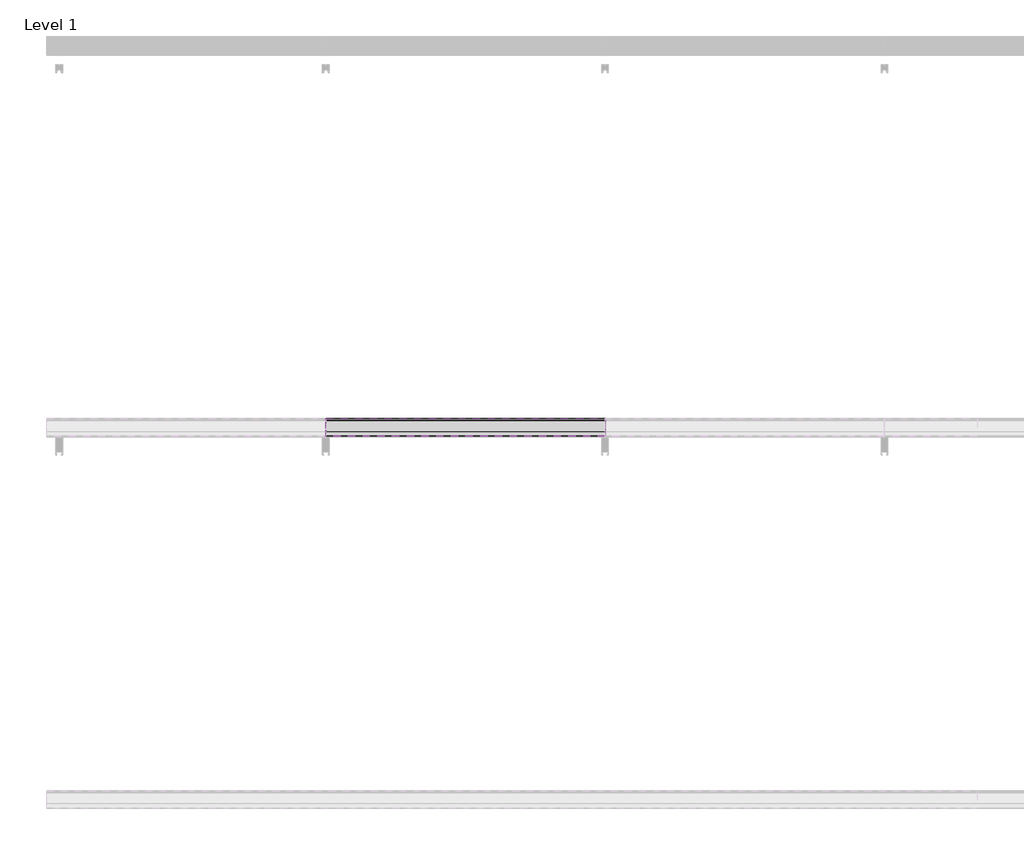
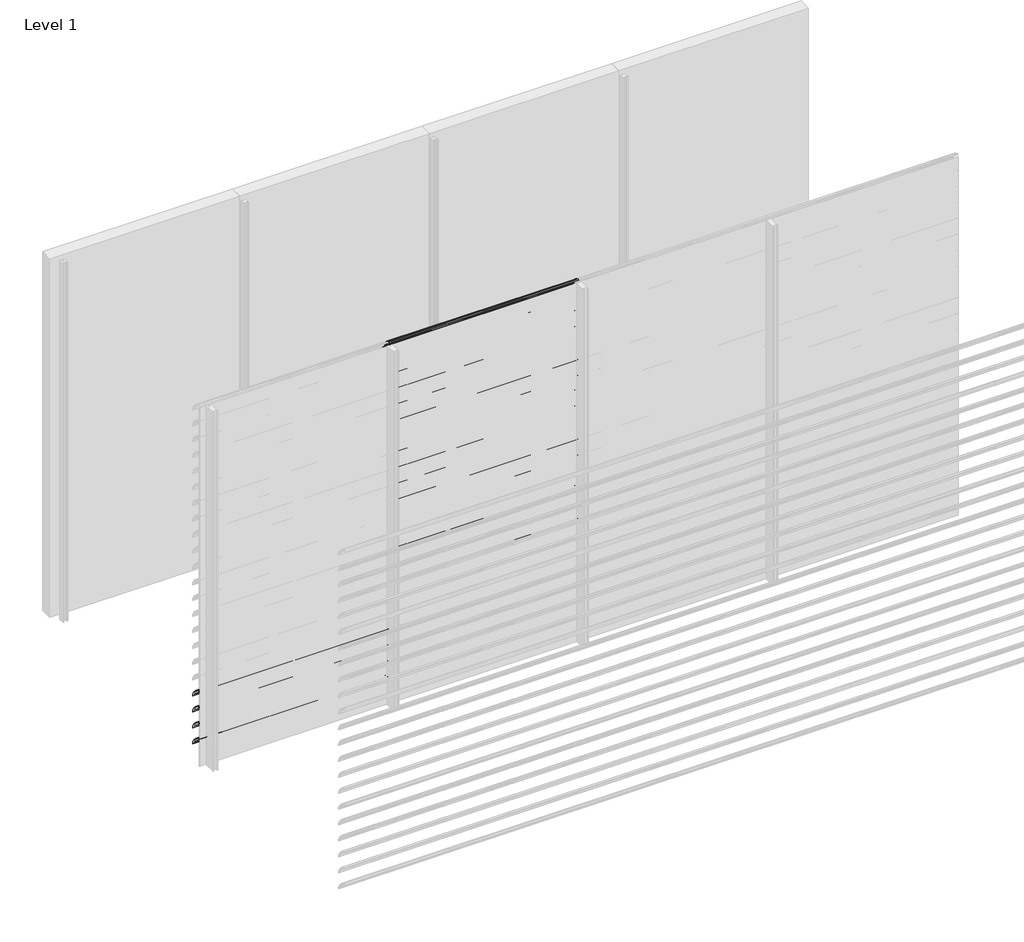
# One storey, part 38 of 57: 20 proxies.
"""IFC4 building model written with IfcOpenShell, lengths in millimetres."""

from ifc_helpers import new_model, si_unit, point, frame, frame_2d, origin, place, context, project, spatial, polyline, circle_curve, trimmed, segment, composite_curve, outline, extrude, element, save

model = new_model("IFC4")

# Units and contexts
model_context = context("Model", 3, world=origin())
ifc_project = project(units=[si_unit("LENGTHUNIT", "METRE", prefix="MILLI")], contexts=[model_context])

# Site, building, storey
site = spatial("IfcSite", under=ifc_project)
building = spatial("IfcBuilding", under=site)
storey = spatial("IfcBuildingStorey", under=building, Name="Level 1", Elevation=0.0)

# Proxies
placement = place(None, origin())
element("IfcBuildingElementProxy", 1, Name="Wall Sweeps", at=placement, inside=storey, context=model_context, shape_type="SweptSolid", body=[
    extrude(outline(composite_curve([segment(trimmed(circle_curve(frame_2d((-17993.7822526, 622.4913792)), 4.2177474), [point((-17989.6985606, 623.5462976))], [point((-17993.7822526, 626.7091266))], False, "CARTESIAN"), True, "CONTINUOUS"), segment(trimmed(circle_curve(frame_2d((-18018.7150834, 524.2536312)), 105.4456002), [point((-17993.7822526, 626.7091266))], [point((-17971.7914298, 618.6832099))], False, "CARTESIAN"), True, "CONTINUOUS"), segment(trimmed(circle_curve(frame_2d((-18061.7199745, 470.0352476)), 173.7335887), [point((-17971.7914298, 618.6832099))], [point((-17913.0720121, 559.9637922))], False, "CARTESIAN"), True, "CONTINUOUS"), segment(trimmed(circle_curve(frame_2d((-18004.9297178, 508.1860314)), 105.4456002), [point((-17913.0720121, 559.9637922))], [point((-17903.6249616, 537.4455765))], False, "CARTESIAN"), True, "CONTINUOUS"), segment(trimmed(circle_curve(frame_2d((-17907.809737, 536.3307305)), 4.3307305), [point((-17903.6249616, 537.4455765))], [point((-17909.0769196, 532.189538))], False, "CARTESIAN"), True, "CONTINUOUS"), segment(polyline([(-17909.0769196, 532.189538), (-17934.7401984, 556.9722783)]), True, "CONTINUOUS"), segment(trimmed(circle_curve(frame_2d((-17931.3879574, 559.2977626)), 4.079877), [point((-17934.7401984, 556.9722783))], [point((-17930.7310597, 563.3244091))], False, "CARTESIAN"), True, "CONTINUOUS"), segment(trimmed(circle_curve(frame_2d((-18014.6665585, 541.2544323)), 86.7885467), [point((-17930.7310597, 563.3244091))], [point((-17942.3028351, 589.1683485))], True, "CARTESIAN"), True, "CONTINUOUS"), segment(polyline([(-17942.3028351, 589.1683485), (-17940.7230099, 591.9046861)]), True, "CONTINUOUS"), segment(trimmed(circle_curve(frame_2d((-18061.7199745, 470.0352476)), 171.7335887), [point((-17940.7230099, 591.9046861))], [point((-17972.7555872, 616.9289618))], True, "CARTESIAN"), True, "CONTINUOUS"), segment(trimmed(circle_curve(frame_2d((-18018.7150834, 524.2536312)), 103.4456002), [point((-17972.7555872, 616.9289618))], [point((-17989.6985606, 623.5462976))], True, "CARTESIAN"), True, "CONTINUOUS")], self_intersect=False)), frame((0.0, 0.0, 0.0), z_axis=(1.0, 0.0, 0.0), x_axis=(0.0, 1.0, 0.0)), (0.0, 0.0, 1.0), 1500.0),
])
element("IfcBuildingElementProxy", 2, Name="Wall Sweeps", at=placement, inside=storey, context=model_context, shape_type="SweptSolid", body=[
    extrude(outline(composite_curve([segment(trimmed(circle_curve(frame_2d((-17993.7822526, 489.4913792)), 4.2177474), [point((-17989.6985606, 490.5462976))], [point((-17993.7822526, 493.7091266))], False, "CARTESIAN"), True, "CONTINUOUS"), segment(trimmed(circle_curve(frame_2d((-18018.7150834, 391.2536312)), 105.4456002), [point((-17993.7822526, 493.7091266))], [point((-17971.7914298, 485.6832099))], False, "CARTESIAN"), True, "CONTINUOUS"), segment(trimmed(circle_curve(frame_2d((-18061.7199745, 337.0352476)), 173.7335887), [point((-17971.7914298, 485.6832099))], [point((-17913.0720121, 426.9637922))], False, "CARTESIAN"), True, "CONTINUOUS"), segment(trimmed(circle_curve(frame_2d((-18004.9297178, 375.1860314)), 105.4456002), [point((-17913.0720121, 426.9637922))], [point((-17903.6249616, 404.4455765))], False, "CARTESIAN"), True, "CONTINUOUS"), segment(trimmed(circle_curve(frame_2d((-17907.809737, 403.3307305)), 4.3307305), [point((-17903.6249616, 404.4455765))], [point((-17909.0769196, 399.189538))], False, "CARTESIAN"), True, "CONTINUOUS"), segment(polyline([(-17909.0769196, 399.189538), (-17934.7401984, 423.9722783)]), True, "CONTINUOUS"), segment(trimmed(circle_curve(frame_2d((-17931.3879574, 426.2977626)), 4.079877), [point((-17934.7401984, 423.9722783))], [point((-17930.7310597, 430.3244091))], False, "CARTESIAN"), True, "CONTINUOUS"), segment(trimmed(circle_curve(frame_2d((-18014.6665585, 408.2544323)), 86.7885467), [point((-17930.7310597, 430.3244091))], [point((-17942.3028351, 456.1683485))], True, "CARTESIAN"), True, "CONTINUOUS"), segment(polyline([(-17942.3028351, 456.1683485), (-17940.7230099, 458.9046861)]), True, "CONTINUOUS"), segment(trimmed(circle_curve(frame_2d((-18061.7199745, 337.0352476)), 171.7335887), [point((-17940.7230099, 458.9046861))], [point((-17972.7555872, 483.9289618))], True, "CARTESIAN"), True, "CONTINUOUS"), segment(trimmed(circle_curve(frame_2d((-18018.7150834, 391.2536312)), 103.4456002), [point((-17972.7555872, 483.9289618))], [point((-17989.6985606, 490.5462976))], True, "CARTESIAN"), True, "CONTINUOUS")], self_intersect=False)), frame((0.0, 0.0, 0.0), z_axis=(1.0, 0.0, 0.0), x_axis=(0.0, 1.0, 0.0)), (0.0, 0.0, 1.0), 1500.0),
])
element("IfcBuildingElementProxy", 3, Name="Wall Sweeps", at=placement, inside=storey, context=model_context, shape_type="SweptSolid", body=[
    extrude(outline(composite_curve([segment(trimmed(circle_curve(frame_2d((-17993.7822526, 356.4913792)), 4.2177474), [point((-17989.6985606, 357.5462976))], [point((-17993.7822526, 360.7091266))], False, "CARTESIAN"), True, "CONTINUOUS"), segment(trimmed(circle_curve(frame_2d((-18018.7150834, 258.2536312)), 105.4456002), [point((-17993.7822526, 360.7091266))], [point((-17971.7914298, 352.6832099))], False, "CARTESIAN"), True, "CONTINUOUS"), segment(trimmed(circle_curve(frame_2d((-18061.7199745, 204.0352476)), 173.7335887), [point((-17971.7914298, 352.6832099))], [point((-17913.0720121, 293.9637922))], False, "CARTESIAN"), True, "CONTINUOUS"), segment(trimmed(circle_curve(frame_2d((-18004.9297178, 242.1860314)), 105.4456002), [point((-17913.0720121, 293.9637922))], [point((-17903.6249616, 271.4455765))], False, "CARTESIAN"), True, "CONTINUOUS"), segment(trimmed(circle_curve(frame_2d((-17907.809737, 270.3307305)), 4.3307305), [point((-17903.6249616, 271.4455765))], [point((-17909.0769196, 266.189538))], False, "CARTESIAN"), True, "CONTINUOUS"), segment(polyline([(-17909.0769196, 266.189538), (-17934.7401984, 290.9722783)]), True, "CONTINUOUS"), segment(trimmed(circle_curve(frame_2d((-17931.3879574, 293.2977626)), 4.079877), [point((-17934.7401984, 290.9722783))], [point((-17930.7310597, 297.3244091))], False, "CARTESIAN"), True, "CONTINUOUS"), segment(trimmed(circle_curve(frame_2d((-18014.6665585, 275.2544323)), 86.7885467), [point((-17930.7310597, 297.3244091))], [point((-17942.3028351, 323.1683485))], True, "CARTESIAN"), True, "CONTINUOUS"), segment(polyline([(-17942.3028351, 323.1683485), (-17940.7230099, 325.9046861)]), True, "CONTINUOUS"), segment(trimmed(circle_curve(frame_2d((-18061.7199745, 204.0352476)), 171.7335887), [point((-17940.7230099, 325.9046861))], [point((-17972.7555872, 350.9289618))], True, "CARTESIAN"), True, "CONTINUOUS"), segment(trimmed(circle_curve(frame_2d((-18018.7150834, 258.2536312)), 103.4456002), [point((-17972.7555872, 350.9289618))], [point((-17989.6985606, 357.5462976))], True, "CARTESIAN"), True, "CONTINUOUS")], self_intersect=False)), frame((0.0, 0.0, 0.0), z_axis=(1.0, 0.0, 0.0), x_axis=(0.0, 1.0, 0.0)), (0.0, 0.0, 1.0), 1500.0),
])
element("IfcBuildingElementProxy", 4, Name="Wall Sweeps", at=placement, inside=storey, context=model_context, shape_type="SweptSolid", body=[
    extrude(outline(composite_curve([segment(trimmed(circle_curve(frame_2d((-17993.7822526, 223.4913792)), 4.2177474), [point((-17989.6985606, 224.5462976))], [point((-17993.7822526, 227.7091266))], False, "CARTESIAN"), True, "CONTINUOUS"), segment(trimmed(circle_curve(frame_2d((-18018.7150834, 125.2536312)), 105.4456002), [point((-17993.7822526, 227.7091266))], [point((-17971.7914298, 219.6832099))], False, "CARTESIAN"), True, "CONTINUOUS"), segment(trimmed(circle_curve(frame_2d((-18061.7199745, 71.0352476)), 173.7335887), [point((-17971.7914298, 219.6832099))], [point((-17913.0720121, 160.9637922))], False, "CARTESIAN"), True, "CONTINUOUS"), segment(trimmed(circle_curve(frame_2d((-18004.9297178, 109.1860314)), 105.4456002), [point((-17913.0720121, 160.9637922))], [point((-17903.6249616, 138.4455765))], False, "CARTESIAN"), True, "CONTINUOUS"), segment(trimmed(circle_curve(frame_2d((-17907.809737, 137.3307305)), 4.3307305), [point((-17903.6249616, 138.4455765))], [point((-17909.0769196, 133.189538))], False, "CARTESIAN"), True, "CONTINUOUS"), segment(polyline([(-17909.0769196, 133.189538), (-17934.7401984, 157.9722783)]), True, "CONTINUOUS"), segment(trimmed(circle_curve(frame_2d((-17931.3879574, 160.2977626)), 4.079877), [point((-17934.7401984, 157.9722783))], [point((-17930.7310597, 164.3244091))], False, "CARTESIAN"), True, "CONTINUOUS"), segment(trimmed(circle_curve(frame_2d((-18014.6665585, 142.2544323)), 86.7885467), [point((-17930.7310597, 164.3244091))], [point((-17942.3028351, 190.1683485))], True, "CARTESIAN"), True, "CONTINUOUS"), segment(polyline([(-17942.3028351, 190.1683485), (-17940.7230099, 192.9046861)]), True, "CONTINUOUS"), segment(trimmed(circle_curve(frame_2d((-18061.7199745, 71.0352476)), 171.7335887), [point((-17940.7230099, 192.9046861))], [point((-17972.7555872, 217.9289618))], True, "CARTESIAN"), True, "CONTINUOUS"), segment(trimmed(circle_curve(frame_2d((-18018.7150834, 125.2536312)), 103.4456002), [point((-17972.7555872, 217.9289618))], [point((-17989.6985606, 224.5462976))], True, "CARTESIAN"), True, "CONTINUOUS")], self_intersect=False)), frame((0.0, 0.0, 0.0), z_axis=(1.0, 0.0, 0.0), x_axis=(0.0, 1.0, 0.0)), (0.0, 0.0, 1.0), 1500.0),
])
element("IfcBuildingElementProxy", 5, Name="Wall Sweeps", at=placement, inside=storey, context=model_context, shape_type="SweptSolid", body=[
    extrude(outline(composite_curve([segment(trimmed(circle_curve(frame_2d((-17993.7822526, 3016.4913792)), 4.2177474), [point((-17989.6985606, 3017.5462976))], [point((-17993.7822526, 3020.7091266))], False, "CARTESIAN"), True, "CONTINUOUS"), segment(trimmed(circle_curve(frame_2d((-18018.7150834, 2918.2536312)), 105.4456002), [point((-17993.7822526, 3020.7091266))], [point((-17971.7914298, 3012.6832099))], False, "CARTESIAN"), True, "CONTINUOUS"), segment(trimmed(circle_curve(frame_2d((-18061.7199745, 2864.0352476)), 173.7335887), [point((-17971.7914298, 3012.6832099))], [point((-17913.0720121, 2953.9637922))], False, "CARTESIAN"), True, "CONTINUOUS"), segment(trimmed(circle_curve(frame_2d((-18004.9297178, 2902.1860314)), 105.4456002), [point((-17913.0720121, 2953.9637922))], [point((-17903.6249616, 2931.4455765))], False, "CARTESIAN"), True, "CONTINUOUS"), segment(trimmed(circle_curve(frame_2d((-17907.809737, 2930.3307305)), 4.3307305), [point((-17903.6249616, 2931.4455765))], [point((-17909.0769196, 2926.189538))], False, "CARTESIAN"), True, "CONTINUOUS"), segment(polyline([(-17909.0769196, 2926.189538), (-17934.7401984, 2950.9722783)]), True, "CONTINUOUS"), segment(trimmed(circle_curve(frame_2d((-17931.3879574, 2953.2977626)), 4.079877), [point((-17934.7401984, 2950.9722783))], [point((-17930.7310597, 2957.3244091))], False, "CARTESIAN"), True, "CONTINUOUS"), segment(trimmed(circle_curve(frame_2d((-18014.6665585, 2935.2544323)), 86.7885467), [point((-17930.7310597, 2957.3244091))], [point((-17942.3028351, 2983.1683485))], True, "CARTESIAN"), True, "CONTINUOUS"), segment(polyline([(-17942.3028351, 2983.1683485), (-17940.7230099, 2985.9046861)]), True, "CONTINUOUS"), segment(trimmed(circle_curve(frame_2d((-18061.7199745, 2864.0352476)), 171.7335887), [point((-17940.7230099, 2985.9046861))], [point((-17972.7555872, 3010.9289618))], True, "CARTESIAN"), True, "CONTINUOUS"), segment(trimmed(circle_curve(frame_2d((-18018.7150834, 2918.2536312)), 103.4456002), [point((-17972.7555872, 3010.9289618))], [point((-17989.6985606, 3017.5462976))], True, "CARTESIAN"), True, "CONTINUOUS")], self_intersect=False)), frame((1500.0, 0.0, 0.0), z_axis=(1.0, 0.0, 0.0), x_axis=(0.0, 1.0, 0.0)), (0.0, 0.0, 1.0), 1500.0),
])
element("IfcBuildingElementProxy", 6, Name="Wall Sweeps", at=placement, inside=storey, context=model_context, shape_type="SweptSolid", body=[
    extrude(outline(composite_curve([segment(trimmed(circle_curve(frame_2d((-17993.7822526, 2883.4913792)), 4.2177474), [point((-17989.6985606, 2884.5462976))], [point((-17993.7822526, 2887.7091266))], False, "CARTESIAN"), True, "CONTINUOUS"), segment(trimmed(circle_curve(frame_2d((-18018.7150834, 2785.2536312)), 105.4456002), [point((-17993.7822526, 2887.7091266))], [point((-17971.7914298, 2879.6832099))], False, "CARTESIAN"), True, "CONTINUOUS"), segment(trimmed(circle_curve(frame_2d((-18061.7199745, 2731.0352476)), 173.7335887), [point((-17971.7914298, 2879.6832099))], [point((-17913.0720121, 2820.9637922))], False, "CARTESIAN"), True, "CONTINUOUS"), segment(trimmed(circle_curve(frame_2d((-18004.9297178, 2769.1860314)), 105.4456002), [point((-17913.0720121, 2820.9637922))], [point((-17903.6249616, 2798.4455765))], False, "CARTESIAN"), True, "CONTINUOUS"), segment(trimmed(circle_curve(frame_2d((-17907.809737, 2797.3307305)), 4.3307305), [point((-17903.6249616, 2798.4455765))], [point((-17909.0769196, 2793.189538))], False, "CARTESIAN"), True, "CONTINUOUS"), segment(polyline([(-17909.0769196, 2793.189538), (-17934.7401984, 2817.9722783)]), True, "CONTINUOUS"), segment(trimmed(circle_curve(frame_2d((-17931.3879574, 2820.2977626)), 4.079877), [point((-17934.7401984, 2817.9722783))], [point((-17930.7310597, 2824.3244091))], False, "CARTESIAN"), True, "CONTINUOUS"), segment(trimmed(circle_curve(frame_2d((-18014.6665585, 2802.2544323)), 86.7885467), [point((-17930.7310597, 2824.3244091))], [point((-17942.3028351, 2850.1683485))], True, "CARTESIAN"), True, "CONTINUOUS"), segment(polyline([(-17942.3028351, 2850.1683485), (-17940.7230099, 2852.9046861)]), True, "CONTINUOUS"), segment(trimmed(circle_curve(frame_2d((-18061.7199745, 2731.0352476)), 171.7335887), [point((-17940.7230099, 2852.9046861))], [point((-17972.7555872, 2877.9289618))], True, "CARTESIAN"), True, "CONTINUOUS"), segment(trimmed(circle_curve(frame_2d((-18018.7150834, 2785.2536312)), 103.4456002), [point((-17972.7555872, 2877.9289618))], [point((-17989.6985606, 2884.5462976))], True, "CARTESIAN"), True, "CONTINUOUS")], self_intersect=False)), frame((1500.0, 0.0, 0.0), z_axis=(1.0, 0.0, 0.0), x_axis=(0.0, 1.0, 0.0)), (0.0, 0.0, 1.0), 1500.0),
])
element("IfcBuildingElementProxy", 7, Name="Wall Sweeps", at=placement, inside=storey, context=model_context, shape_type="SweptSolid", body=[
    extrude(outline(composite_curve([segment(trimmed(circle_curve(frame_2d((-17993.7822526, 2750.4913792)), 4.2177474), [point((-17989.6985606, 2751.5462976))], [point((-17993.7822526, 2754.7091266))], False, "CARTESIAN"), True, "CONTINUOUS"), segment(trimmed(circle_curve(frame_2d((-18018.7150834, 2652.2536312)), 105.4456002), [point((-17993.7822526, 2754.7091266))], [point((-17971.7914298, 2746.6832099))], False, "CARTESIAN"), True, "CONTINUOUS"), segment(trimmed(circle_curve(frame_2d((-18061.7199745, 2598.0352476)), 173.7335887), [point((-17971.7914298, 2746.6832099))], [point((-17913.0720121, 2687.9637922))], False, "CARTESIAN"), True, "CONTINUOUS"), segment(trimmed(circle_curve(frame_2d((-18004.9297178, 2636.1860314)), 105.4456002), [point((-17913.0720121, 2687.9637922))], [point((-17903.6249616, 2665.4455765))], False, "CARTESIAN"), True, "CONTINUOUS"), segment(trimmed(circle_curve(frame_2d((-17907.809737, 2664.3307305)), 4.3307305), [point((-17903.6249616, 2665.4455765))], [point((-17909.0769196, 2660.189538))], False, "CARTESIAN"), True, "CONTINUOUS"), segment(polyline([(-17909.0769196, 2660.189538), (-17934.7401984, 2684.9722783)]), True, "CONTINUOUS"), segment(trimmed(circle_curve(frame_2d((-17931.3879574, 2687.2977626)), 4.079877), [point((-17934.7401984, 2684.9722783))], [point((-17930.7310597, 2691.3244091))], False, "CARTESIAN"), True, "CONTINUOUS"), segment(trimmed(circle_curve(frame_2d((-18014.6665585, 2669.2544323)), 86.7885467), [point((-17930.7310597, 2691.3244091))], [point((-17942.3028351, 2717.1683485))], True, "CARTESIAN"), True, "CONTINUOUS"), segment(polyline([(-17942.3028351, 2717.1683485), (-17940.7230099, 2719.9046861)]), True, "CONTINUOUS"), segment(trimmed(circle_curve(frame_2d((-18061.7199745, 2598.0352476)), 171.7335887), [point((-17940.7230099, 2719.9046861))], [point((-17972.7555872, 2744.9289618))], True, "CARTESIAN"), True, "CONTINUOUS"), segment(trimmed(circle_curve(frame_2d((-18018.7150834, 2652.2536312)), 103.4456002), [point((-17972.7555872, 2744.9289618))], [point((-17989.6985606, 2751.5462976))], True, "CARTESIAN"), True, "CONTINUOUS")], self_intersect=False)), frame((1500.0, 0.0, 0.0), z_axis=(1.0, 0.0, 0.0), x_axis=(0.0, 1.0, 0.0)), (0.0, 0.0, 1.0), 1500.0),
])
element("IfcBuildingElementProxy", 8, Name="Wall Sweeps", at=placement, inside=storey, context=model_context, shape_type="SweptSolid", body=[
    extrude(outline(composite_curve([segment(trimmed(circle_curve(frame_2d((-17993.7822526, 2617.4913792)), 4.2177474), [point((-17989.6985606, 2618.5462976))], [point((-17993.7822526, 2621.7091266))], False, "CARTESIAN"), True, "CONTINUOUS"), segment(trimmed(circle_curve(frame_2d((-18018.7150834, 2519.2536312)), 105.4456002), [point((-17993.7822526, 2621.7091266))], [point((-17971.7914298, 2613.6832099))], False, "CARTESIAN"), True, "CONTINUOUS"), segment(trimmed(circle_curve(frame_2d((-18061.7199745, 2465.0352476)), 173.7335887), [point((-17971.7914298, 2613.6832099))], [point((-17913.0720121, 2554.9637922))], False, "CARTESIAN"), True, "CONTINUOUS"), segment(trimmed(circle_curve(frame_2d((-18004.9297178, 2503.1860314)), 105.4456002), [point((-17913.0720121, 2554.9637922))], [point((-17903.6249616, 2532.4455765))], False, "CARTESIAN"), True, "CONTINUOUS"), segment(trimmed(circle_curve(frame_2d((-17907.809737, 2531.3307305)), 4.3307305), [point((-17903.6249616, 2532.4455765))], [point((-17909.0769196, 2527.189538))], False, "CARTESIAN"), True, "CONTINUOUS"), segment(polyline([(-17909.0769196, 2527.189538), (-17934.7401984, 2551.9722783)]), True, "CONTINUOUS"), segment(trimmed(circle_curve(frame_2d((-17931.3879574, 2554.2977626)), 4.079877), [point((-17934.7401984, 2551.9722783))], [point((-17930.7310597, 2558.3244091))], False, "CARTESIAN"), True, "CONTINUOUS"), segment(trimmed(circle_curve(frame_2d((-18014.6665585, 2536.2544323)), 86.7885467), [point((-17930.7310597, 2558.3244091))], [point((-17942.3028351, 2584.1683485))], True, "CARTESIAN"), True, "CONTINUOUS"), segment(polyline([(-17942.3028351, 2584.1683485), (-17940.7230099, 2586.9046861)]), True, "CONTINUOUS"), segment(trimmed(circle_curve(frame_2d((-18061.7199745, 2465.0352476)), 171.7335887), [point((-17940.7230099, 2586.9046861))], [point((-17972.7555872, 2611.9289618))], True, "CARTESIAN"), True, "CONTINUOUS"), segment(trimmed(circle_curve(frame_2d((-18018.7150834, 2519.2536312)), 103.4456002), [point((-17972.7555872, 2611.9289618))], [point((-17989.6985606, 2618.5462976))], True, "CARTESIAN"), True, "CONTINUOUS")], self_intersect=False)), frame((1500.0, 0.0, 0.0), z_axis=(1.0, 0.0, 0.0), x_axis=(0.0, 1.0, 0.0)), (0.0, 0.0, 1.0), 1500.0),
])
element("IfcBuildingElementProxy", 9, Name="Wall Sweeps", at=placement, inside=storey, context=model_context, shape_type="SweptSolid", body=[
    extrude(outline(composite_curve([segment(trimmed(circle_curve(frame_2d((-17993.7822526, 2484.4913792)), 4.2177474), [point((-17989.6985606, 2485.5462976))], [point((-17993.7822526, 2488.7091266))], False, "CARTESIAN"), True, "CONTINUOUS"), segment(trimmed(circle_curve(frame_2d((-18018.7150834, 2386.2536312)), 105.4456002), [point((-17993.7822526, 2488.7091266))], [point((-17971.7914298, 2480.6832099))], False, "CARTESIAN"), True, "CONTINUOUS"), segment(trimmed(circle_curve(frame_2d((-18061.7199745, 2332.0352476)), 173.7335887), [point((-17971.7914298, 2480.6832099))], [point((-17913.0720121, 2421.9637922))], False, "CARTESIAN"), True, "CONTINUOUS"), segment(trimmed(circle_curve(frame_2d((-18004.9297178, 2370.1860314)), 105.4456002), [point((-17913.0720121, 2421.9637922))], [point((-17903.6249616, 2399.4455765))], False, "CARTESIAN"), True, "CONTINUOUS"), segment(trimmed(circle_curve(frame_2d((-17907.809737, 2398.3307305)), 4.3307305), [point((-17903.6249616, 2399.4455765))], [point((-17909.0769196, 2394.189538))], False, "CARTESIAN"), True, "CONTINUOUS"), segment(polyline([(-17909.0769196, 2394.189538), (-17934.7401984, 2418.9722783)]), True, "CONTINUOUS"), segment(trimmed(circle_curve(frame_2d((-17931.3879574, 2421.2977626)), 4.079877), [point((-17934.7401984, 2418.9722783))], [point((-17930.7310597, 2425.3244091))], False, "CARTESIAN"), True, "CONTINUOUS"), segment(trimmed(circle_curve(frame_2d((-18014.6665585, 2403.2544323)), 86.7885467), [point((-17930.7310597, 2425.3244091))], [point((-17942.3028351, 2451.1683485))], True, "CARTESIAN"), True, "CONTINUOUS"), segment(polyline([(-17942.3028351, 2451.1683485), (-17940.7230099, 2453.9046861)]), True, "CONTINUOUS"), segment(trimmed(circle_curve(frame_2d((-18061.7199745, 2332.0352476)), 171.7335887), [point((-17940.7230099, 2453.9046861))], [point((-17972.7555872, 2478.9289618))], True, "CARTESIAN"), True, "CONTINUOUS"), segment(trimmed(circle_curve(frame_2d((-18018.7150834, 2386.2536312)), 103.4456002), [point((-17972.7555872, 2478.9289618))], [point((-17989.6985606, 2485.5462976))], True, "CARTESIAN"), True, "CONTINUOUS")], self_intersect=False)), frame((1500.0, 0.0, 0.0), z_axis=(1.0, 0.0, 0.0), x_axis=(0.0, 1.0, 0.0)), (0.0, 0.0, 1.0), 1500.0),
])
element("IfcBuildingElementProxy", 10, Name="Wall Sweeps", at=placement, inside=storey, context=model_context, shape_type="SweptSolid", body=[
    extrude(outline(composite_curve([segment(trimmed(circle_curve(frame_2d((-17993.7822526, 2351.4913792)), 4.2177474), [point((-17989.6985606, 2352.5462976))], [point((-17993.7822526, 2355.7091266))], False, "CARTESIAN"), True, "CONTINUOUS"), segment(trimmed(circle_curve(frame_2d((-18018.7150834, 2253.2536312)), 105.4456002), [point((-17993.7822526, 2355.7091266))], [point((-17971.7914298, 2347.6832099))], False, "CARTESIAN"), True, "CONTINUOUS"), segment(trimmed(circle_curve(frame_2d((-18061.7199745, 2199.0352476)), 173.7335887), [point((-17971.7914298, 2347.6832099))], [point((-17913.0720121, 2288.9637922))], False, "CARTESIAN"), True, "CONTINUOUS"), segment(trimmed(circle_curve(frame_2d((-18004.9297178, 2237.1860314)), 105.4456002), [point((-17913.0720121, 2288.9637922))], [point((-17903.6249616, 2266.4455765))], False, "CARTESIAN"), True, "CONTINUOUS"), segment(trimmed(circle_curve(frame_2d((-17907.809737, 2265.3307305)), 4.3307305), [point((-17903.6249616, 2266.4455765))], [point((-17909.0769196, 2261.189538))], False, "CARTESIAN"), True, "CONTINUOUS"), segment(polyline([(-17909.0769196, 2261.189538), (-17934.7401984, 2285.9722783)]), True, "CONTINUOUS"), segment(trimmed(circle_curve(frame_2d((-17931.3879574, 2288.2977626)), 4.079877), [point((-17934.7401984, 2285.9722783))], [point((-17930.7310597, 2292.3244091))], False, "CARTESIAN"), True, "CONTINUOUS"), segment(trimmed(circle_curve(frame_2d((-18014.6665585, 2270.2544323)), 86.7885467), [point((-17930.7310597, 2292.3244091))], [point((-17942.3028351, 2318.1683485))], True, "CARTESIAN"), True, "CONTINUOUS"), segment(polyline([(-17942.3028351, 2318.1683485), (-17940.7230099, 2320.9046861)]), True, "CONTINUOUS"), segment(trimmed(circle_curve(frame_2d((-18061.7199745, 2199.0352476)), 171.7335887), [point((-17940.7230099, 2320.9046861))], [point((-17972.7555872, 2345.9289618))], True, "CARTESIAN"), True, "CONTINUOUS"), segment(trimmed(circle_curve(frame_2d((-18018.7150834, 2253.2536312)), 103.4456002), [point((-17972.7555872, 2345.9289618))], [point((-17989.6985606, 2352.5462976))], True, "CARTESIAN"), True, "CONTINUOUS")], self_intersect=False)), frame((1500.0, 0.0, 0.0), z_axis=(1.0, 0.0, 0.0), x_axis=(0.0, 1.0, 0.0)), (0.0, 0.0, 1.0), 1500.0),
])
element("IfcBuildingElementProxy", 11, Name="Wall Sweeps", at=placement, inside=storey, context=model_context, shape_type="SweptSolid", body=[
    extrude(outline(composite_curve([segment(trimmed(circle_curve(frame_2d((-17993.7822526, 2218.4913792)), 4.2177474), [point((-17989.6985606, 2219.5462976))], [point((-17993.7822526, 2222.7091266))], False, "CARTESIAN"), True, "CONTINUOUS"), segment(trimmed(circle_curve(frame_2d((-18018.7150834, 2120.2536312)), 105.4456002), [point((-17993.7822526, 2222.7091266))], [point((-17971.7914298, 2214.6832099))], False, "CARTESIAN"), True, "CONTINUOUS"), segment(trimmed(circle_curve(frame_2d((-18061.7199745, 2066.0352476)), 173.7335887), [point((-17971.7914298, 2214.6832099))], [point((-17913.0720121, 2155.9637922))], False, "CARTESIAN"), True, "CONTINUOUS"), segment(trimmed(circle_curve(frame_2d((-18004.9297178, 2104.1860314)), 105.4456002), [point((-17913.0720121, 2155.9637922))], [point((-17903.6249616, 2133.4455765))], False, "CARTESIAN"), True, "CONTINUOUS"), segment(trimmed(circle_curve(frame_2d((-17907.809737, 2132.3307305)), 4.3307305), [point((-17903.6249616, 2133.4455765))], [point((-17909.0769196, 2128.189538))], False, "CARTESIAN"), True, "CONTINUOUS"), segment(polyline([(-17909.0769196, 2128.189538), (-17934.7401984, 2152.9722783)]), True, "CONTINUOUS"), segment(trimmed(circle_curve(frame_2d((-17931.3879574, 2155.2977626)), 4.079877), [point((-17934.7401984, 2152.9722783))], [point((-17930.7310597, 2159.3244091))], False, "CARTESIAN"), True, "CONTINUOUS"), segment(trimmed(circle_curve(frame_2d((-18014.6665585, 2137.2544323)), 86.7885467), [point((-17930.7310597, 2159.3244091))], [point((-17942.3028351, 2185.1683485))], True, "CARTESIAN"), True, "CONTINUOUS"), segment(polyline([(-17942.3028351, 2185.1683485), (-17940.7230099, 2187.9046861)]), True, "CONTINUOUS"), segment(trimmed(circle_curve(frame_2d((-18061.7199745, 2066.0352476)), 171.7335887), [point((-17940.7230099, 2187.9046861))], [point((-17972.7555872, 2212.9289618))], True, "CARTESIAN"), True, "CONTINUOUS"), segment(trimmed(circle_curve(frame_2d((-18018.7150834, 2120.2536312)), 103.4456002), [point((-17972.7555872, 2212.9289618))], [point((-17989.6985606, 2219.5462976))], True, "CARTESIAN"), True, "CONTINUOUS")], self_intersect=False)), frame((1500.0, 0.0, 0.0), z_axis=(1.0, 0.0, 0.0), x_axis=(0.0, 1.0, 0.0)), (0.0, 0.0, 1.0), 1500.0),
])
element("IfcBuildingElementProxy", 12, Name="Wall Sweeps", at=placement, inside=storey, context=model_context, shape_type="SweptSolid", body=[
    extrude(outline(composite_curve([segment(trimmed(circle_curve(frame_2d((-17993.7822526, 2085.4913792)), 4.2177474), [point((-17989.6985606, 2086.5462976))], [point((-17993.7822526, 2089.7091266))], False, "CARTESIAN"), True, "CONTINUOUS"), segment(trimmed(circle_curve(frame_2d((-18018.7150834, 1987.2536312)), 105.4456002), [point((-17993.7822526, 2089.7091266))], [point((-17971.7914298, 2081.6832099))], False, "CARTESIAN"), True, "CONTINUOUS"), segment(trimmed(circle_curve(frame_2d((-18061.7199745, 1933.0352476)), 173.7335887), [point((-17971.7914298, 2081.6832099))], [point((-17913.0720121, 2022.9637922))], False, "CARTESIAN"), True, "CONTINUOUS"), segment(trimmed(circle_curve(frame_2d((-18004.9297178, 1971.1860314)), 105.4456002), [point((-17913.0720121, 2022.9637922))], [point((-17903.6249616, 2000.4455765))], False, "CARTESIAN"), True, "CONTINUOUS"), segment(trimmed(circle_curve(frame_2d((-17907.809737, 1999.3307305)), 4.3307305), [point((-17903.6249616, 2000.4455765))], [point((-17909.0769196, 1995.189538))], False, "CARTESIAN"), True, "CONTINUOUS"), segment(polyline([(-17909.0769196, 1995.189538), (-17934.7401984, 2019.9722783)]), True, "CONTINUOUS"), segment(trimmed(circle_curve(frame_2d((-17931.3879574, 2022.2977626)), 4.079877), [point((-17934.7401984, 2019.9722783))], [point((-17930.7310597, 2026.3244091))], False, "CARTESIAN"), True, "CONTINUOUS"), segment(trimmed(circle_curve(frame_2d((-18014.6665585, 2004.2544323)), 86.7885467), [point((-17930.7310597, 2026.3244091))], [point((-17942.3028351, 2052.1683485))], True, "CARTESIAN"), True, "CONTINUOUS"), segment(polyline([(-17942.3028351, 2052.1683485), (-17940.7230099, 2054.9046861)]), True, "CONTINUOUS"), segment(trimmed(circle_curve(frame_2d((-18061.7199745, 1933.0352476)), 171.7335887), [point((-17940.7230099, 2054.9046861))], [point((-17972.7555872, 2079.9289618))], True, "CARTESIAN"), True, "CONTINUOUS"), segment(trimmed(circle_curve(frame_2d((-18018.7150834, 1987.2536312)), 103.4456002), [point((-17972.7555872, 2079.9289618))], [point((-17989.6985606, 2086.5462976))], True, "CARTESIAN"), True, "CONTINUOUS")], self_intersect=False)), frame((1500.0, 0.0, 0.0), z_axis=(1.0, 0.0, 0.0), x_axis=(0.0, 1.0, 0.0)), (0.0, 0.0, 1.0), 1500.0),
])
element("IfcBuildingElementProxy", 13, Name="Wall Sweeps", at=placement, inside=storey, context=model_context, shape_type="SweptSolid", body=[
    extrude(outline(composite_curve([segment(trimmed(circle_curve(frame_2d((-17993.7822526, 1952.4913792)), 4.2177474), [point((-17989.6985606, 1953.5462976))], [point((-17993.7822526, 1956.7091266))], False, "CARTESIAN"), True, "CONTINUOUS"), segment(trimmed(circle_curve(frame_2d((-18018.7150834, 1854.2536312)), 105.4456002), [point((-17993.7822526, 1956.7091266))], [point((-17971.7914298, 1948.6832099))], False, "CARTESIAN"), True, "CONTINUOUS"), segment(trimmed(circle_curve(frame_2d((-18061.7199745, 1800.0352476)), 173.7335887), [point((-17971.7914298, 1948.6832099))], [point((-17913.0720121, 1889.9637922))], False, "CARTESIAN"), True, "CONTINUOUS"), segment(trimmed(circle_curve(frame_2d((-18004.9297178, 1838.1860314)), 105.4456002), [point((-17913.0720121, 1889.9637922))], [point((-17903.6249616, 1867.4455765))], False, "CARTESIAN"), True, "CONTINUOUS"), segment(trimmed(circle_curve(frame_2d((-17907.809737, 1866.3307305)), 4.3307305), [point((-17903.6249616, 1867.4455765))], [point((-17909.0769196, 1862.189538))], False, "CARTESIAN"), True, "CONTINUOUS"), segment(polyline([(-17909.0769196, 1862.189538), (-17934.7401984, 1886.9722783)]), True, "CONTINUOUS"), segment(trimmed(circle_curve(frame_2d((-17931.3879574, 1889.2977626)), 4.079877), [point((-17934.7401984, 1886.9722783))], [point((-17930.7310597, 1893.3244091))], False, "CARTESIAN"), True, "CONTINUOUS"), segment(trimmed(circle_curve(frame_2d((-18014.6665585, 1871.2544323)), 86.7885467), [point((-17930.7310597, 1893.3244091))], [point((-17942.3028351, 1919.1683485))], True, "CARTESIAN"), True, "CONTINUOUS"), segment(polyline([(-17942.3028351, 1919.1683485), (-17940.7230099, 1921.9046861)]), True, "CONTINUOUS"), segment(trimmed(circle_curve(frame_2d((-18061.7199745, 1800.0352476)), 171.7335887), [point((-17940.7230099, 1921.9046861))], [point((-17972.7555872, 1946.9289618))], True, "CARTESIAN"), True, "CONTINUOUS"), segment(trimmed(circle_curve(frame_2d((-18018.7150834, 1854.2536312)), 103.4456002), [point((-17972.7555872, 1946.9289618))], [point((-17989.6985606, 1953.5462976))], True, "CARTESIAN"), True, "CONTINUOUS")], self_intersect=False)), frame((1500.0, 0.0, 0.0), z_axis=(1.0, 0.0, 0.0), x_axis=(0.0, 1.0, 0.0)), (0.0, 0.0, 1.0), 1500.0),
])
element("IfcBuildingElementProxy", 14, Name="Wall Sweeps", at=placement, inside=storey, context=model_context, shape_type="SweptSolid", body=[
    extrude(outline(composite_curve([segment(trimmed(circle_curve(frame_2d((-17993.7822526, 1819.4913792)), 4.2177474), [point((-17989.6985606, 1820.5462976))], [point((-17993.7822526, 1823.7091266))], False, "CARTESIAN"), True, "CONTINUOUS"), segment(trimmed(circle_curve(frame_2d((-18018.7150834, 1721.2536312)), 105.4456002), [point((-17993.7822526, 1823.7091266))], [point((-17971.7914298, 1815.6832099))], False, "CARTESIAN"), True, "CONTINUOUS"), segment(trimmed(circle_curve(frame_2d((-18061.7199745, 1667.0352476)), 173.7335887), [point((-17971.7914298, 1815.6832099))], [point((-17913.0720121, 1756.9637922))], False, "CARTESIAN"), True, "CONTINUOUS"), segment(trimmed(circle_curve(frame_2d((-18004.9297178, 1705.1860314)), 105.4456002), [point((-17913.0720121, 1756.9637922))], [point((-17903.6249616, 1734.4455765))], False, "CARTESIAN"), True, "CONTINUOUS"), segment(trimmed(circle_curve(frame_2d((-17907.809737, 1733.3307305)), 4.3307305), [point((-17903.6249616, 1734.4455765))], [point((-17909.0769196, 1729.189538))], False, "CARTESIAN"), True, "CONTINUOUS"), segment(polyline([(-17909.0769196, 1729.189538), (-17934.7401984, 1753.9722783)]), True, "CONTINUOUS"), segment(trimmed(circle_curve(frame_2d((-17931.3879574, 1756.2977626)), 4.079877), [point((-17934.7401984, 1753.9722783))], [point((-17930.7310597, 1760.3244091))], False, "CARTESIAN"), True, "CONTINUOUS"), segment(trimmed(circle_curve(frame_2d((-18014.6665585, 1738.2544323)), 86.7885467), [point((-17930.7310597, 1760.3244091))], [point((-17942.3028351, 1786.1683485))], True, "CARTESIAN"), True, "CONTINUOUS"), segment(polyline([(-17942.3028351, 1786.1683485), (-17940.7230099, 1788.9046861)]), True, "CONTINUOUS"), segment(trimmed(circle_curve(frame_2d((-18061.7199745, 1667.0352476)), 171.7335887), [point((-17940.7230099, 1788.9046861))], [point((-17972.7555872, 1813.9289618))], True, "CARTESIAN"), True, "CONTINUOUS"), segment(trimmed(circle_curve(frame_2d((-18018.7150834, 1721.2536312)), 103.4456002), [point((-17972.7555872, 1813.9289618))], [point((-17989.6985606, 1820.5462976))], True, "CARTESIAN"), True, "CONTINUOUS")], self_intersect=False)), frame((1500.0, 0.0, 0.0), z_axis=(1.0, 0.0, 0.0), x_axis=(0.0, 1.0, 0.0)), (0.0, 0.0, 1.0), 1500.0),
])
element("IfcBuildingElementProxy", 15, Name="Wall Sweeps", at=placement, inside=storey, context=model_context, shape_type="SweptSolid", body=[
    extrude(outline(composite_curve([segment(trimmed(circle_curve(frame_2d((-17993.7822526, 1686.4913792)), 4.2177474), [point((-17989.6985606, 1687.5462976))], [point((-17993.7822526, 1690.7091266))], False, "CARTESIAN"), True, "CONTINUOUS"), segment(trimmed(circle_curve(frame_2d((-18018.7150834, 1588.2536312)), 105.4456002), [point((-17993.7822526, 1690.7091266))], [point((-17971.7914298, 1682.6832099))], False, "CARTESIAN"), True, "CONTINUOUS"), segment(trimmed(circle_curve(frame_2d((-18061.7199745, 1534.0352476)), 173.7335887), [point((-17971.7914298, 1682.6832099))], [point((-17913.0720121, 1623.9637922))], False, "CARTESIAN"), True, "CONTINUOUS"), segment(trimmed(circle_curve(frame_2d((-18004.9297178, 1572.1860314)), 105.4456002), [point((-17913.0720121, 1623.9637922))], [point((-17903.6249616, 1601.4455765))], False, "CARTESIAN"), True, "CONTINUOUS"), segment(trimmed(circle_curve(frame_2d((-17907.809737, 1600.3307305)), 4.3307305), [point((-17903.6249616, 1601.4455765))], [point((-17909.0769196, 1596.189538))], False, "CARTESIAN"), True, "CONTINUOUS"), segment(polyline([(-17909.0769196, 1596.189538), (-17934.7401984, 1620.9722783)]), True, "CONTINUOUS"), segment(trimmed(circle_curve(frame_2d((-17931.3879574, 1623.2977626)), 4.079877), [point((-17934.7401984, 1620.9722783))], [point((-17930.7310597, 1627.3244091))], False, "CARTESIAN"), True, "CONTINUOUS"), segment(trimmed(circle_curve(frame_2d((-18014.6665585, 1605.2544323)), 86.7885467), [point((-17930.7310597, 1627.3244091))], [point((-17942.3028351, 1653.1683485))], True, "CARTESIAN"), True, "CONTINUOUS"), segment(polyline([(-17942.3028351, 1653.1683485), (-17940.7230099, 1655.9046861)]), True, "CONTINUOUS"), segment(trimmed(circle_curve(frame_2d((-18061.7199745, 1534.0352476)), 171.7335887), [point((-17940.7230099, 1655.9046861))], [point((-17972.7555872, 1680.9289618))], True, "CARTESIAN"), True, "CONTINUOUS"), segment(trimmed(circle_curve(frame_2d((-18018.7150834, 1588.2536312)), 103.4456002), [point((-17972.7555872, 1680.9289618))], [point((-17989.6985606, 1687.5462976))], True, "CARTESIAN"), True, "CONTINUOUS")], self_intersect=False)), frame((1500.0, 0.0, 0.0), z_axis=(1.0, 0.0, 0.0), x_axis=(0.0, 1.0, 0.0)), (0.0, 0.0, 1.0), 1500.0),
])
element("IfcBuildingElementProxy", 16, Name="Wall Sweeps", at=placement, inside=storey, context=model_context, shape_type="SweptSolid", body=[
    extrude(outline(composite_curve([segment(trimmed(circle_curve(frame_2d((-17993.7822526, 1553.4913792)), 4.2177474), [point((-17989.6985606, 1554.5462976))], [point((-17993.7822526, 1557.7091266))], False, "CARTESIAN"), True, "CONTINUOUS"), segment(trimmed(circle_curve(frame_2d((-18018.7150834, 1455.2536312)), 105.4456002), [point((-17993.7822526, 1557.7091266))], [point((-17971.7914298, 1549.6832099))], False, "CARTESIAN"), True, "CONTINUOUS"), segment(trimmed(circle_curve(frame_2d((-18061.7199745, 1401.0352476)), 173.7335887), [point((-17971.7914298, 1549.6832099))], [point((-17913.0720121, 1490.9637922))], False, "CARTESIAN"), True, "CONTINUOUS"), segment(trimmed(circle_curve(frame_2d((-18004.9297178, 1439.1860314)), 105.4456002), [point((-17913.0720121, 1490.9637922))], [point((-17903.6249616, 1468.4455765))], False, "CARTESIAN"), True, "CONTINUOUS"), segment(trimmed(circle_curve(frame_2d((-17907.809737, 1467.3307305)), 4.3307305), [point((-17903.6249616, 1468.4455765))], [point((-17909.0769196, 1463.189538))], False, "CARTESIAN"), True, "CONTINUOUS"), segment(polyline([(-17909.0769196, 1463.189538), (-17934.7401984, 1487.9722783)]), True, "CONTINUOUS"), segment(trimmed(circle_curve(frame_2d((-17931.3879574, 1490.2977626)), 4.079877), [point((-17934.7401984, 1487.9722783))], [point((-17930.7310597, 1494.3244091))], False, "CARTESIAN"), True, "CONTINUOUS"), segment(trimmed(circle_curve(frame_2d((-18014.6665585, 1472.2544323)), 86.7885467), [point((-17930.7310597, 1494.3244091))], [point((-17942.3028351, 1520.1683485))], True, "CARTESIAN"), True, "CONTINUOUS"), segment(polyline([(-17942.3028351, 1520.1683485), (-17940.7230099, 1522.9046861)]), True, "CONTINUOUS"), segment(trimmed(circle_curve(frame_2d((-18061.7199745, 1401.0352476)), 171.7335887), [point((-17940.7230099, 1522.9046861))], [point((-17972.7555872, 1547.9289618))], True, "CARTESIAN"), True, "CONTINUOUS"), segment(trimmed(circle_curve(frame_2d((-18018.7150834, 1455.2536312)), 103.4456002), [point((-17972.7555872, 1547.9289618))], [point((-17989.6985606, 1554.5462976))], True, "CARTESIAN"), True, "CONTINUOUS")], self_intersect=False)), frame((1500.0, 0.0, 0.0), z_axis=(1.0, 0.0, 0.0), x_axis=(0.0, 1.0, 0.0)), (0.0, 0.0, 1.0), 1500.0),
])
element("IfcBuildingElementProxy", 17, Name="Wall Sweeps", at=placement, inside=storey, context=model_context, shape_type="SweptSolid", body=[
    extrude(outline(composite_curve([segment(trimmed(circle_curve(frame_2d((-17993.7822526, 1420.4913792)), 4.2177474), [point((-17989.6985606, 1421.5462976))], [point((-17993.7822526, 1424.7091266))], False, "CARTESIAN"), True, "CONTINUOUS"), segment(trimmed(circle_curve(frame_2d((-18018.7150834, 1322.2536312)), 105.4456002), [point((-17993.7822526, 1424.7091266))], [point((-17971.7914298, 1416.6832099))], False, "CARTESIAN"), True, "CONTINUOUS"), segment(trimmed(circle_curve(frame_2d((-18061.7199745, 1268.0352476)), 173.7335887), [point((-17971.7914298, 1416.6832099))], [point((-17913.0720121, 1357.9637922))], False, "CARTESIAN"), True, "CONTINUOUS"), segment(trimmed(circle_curve(frame_2d((-18004.9297178, 1306.1860314)), 105.4456002), [point((-17913.0720121, 1357.9637922))], [point((-17903.6249616, 1335.4455765))], False, "CARTESIAN"), True, "CONTINUOUS"), segment(trimmed(circle_curve(frame_2d((-17907.809737, 1334.3307305)), 4.3307305), [point((-17903.6249616, 1335.4455765))], [point((-17909.0769196, 1330.189538))], False, "CARTESIAN"), True, "CONTINUOUS"), segment(polyline([(-17909.0769196, 1330.189538), (-17934.7401984, 1354.9722783)]), True, "CONTINUOUS"), segment(trimmed(circle_curve(frame_2d((-17931.3879574, 1357.2977626)), 4.079877), [point((-17934.7401984, 1354.9722783))], [point((-17930.7310597, 1361.3244091))], False, "CARTESIAN"), True, "CONTINUOUS"), segment(trimmed(circle_curve(frame_2d((-18014.6665585, 1339.2544323)), 86.7885467), [point((-17930.7310597, 1361.3244091))], [point((-17942.3028351, 1387.1683485))], True, "CARTESIAN"), True, "CONTINUOUS"), segment(polyline([(-17942.3028351, 1387.1683485), (-17940.7230099, 1389.9046861)]), True, "CONTINUOUS"), segment(trimmed(circle_curve(frame_2d((-18061.7199745, 1268.0352476)), 171.7335887), [point((-17940.7230099, 1389.9046861))], [point((-17972.7555872, 1414.9289618))], True, "CARTESIAN"), True, "CONTINUOUS"), segment(trimmed(circle_curve(frame_2d((-18018.7150834, 1322.2536312)), 103.4456002), [point((-17972.7555872, 1414.9289618))], [point((-17989.6985606, 1421.5462976))], True, "CARTESIAN"), True, "CONTINUOUS")], self_intersect=False)), frame((1500.0, 0.0, 0.0), z_axis=(1.0, 0.0, 0.0), x_axis=(0.0, 1.0, 0.0)), (0.0, 0.0, 1.0), 1500.0),
])
element("IfcBuildingElementProxy", 18, Name="Wall Sweeps", at=placement, inside=storey, context=model_context, shape_type="SweptSolid", body=[
    extrude(outline(composite_curve([segment(trimmed(circle_curve(frame_2d((-17993.7822526, 1287.4913792)), 4.2177474), [point((-17989.6985606, 1288.5462976))], [point((-17993.7822526, 1291.7091266))], False, "CARTESIAN"), True, "CONTINUOUS"), segment(trimmed(circle_curve(frame_2d((-18018.7150834, 1189.2536312)), 105.4456002), [point((-17993.7822526, 1291.7091266))], [point((-17971.7914298, 1283.6832099))], False, "CARTESIAN"), True, "CONTINUOUS"), segment(trimmed(circle_curve(frame_2d((-18061.7199745, 1135.0352476)), 173.7335887), [point((-17971.7914298, 1283.6832099))], [point((-17913.0720121, 1224.9637922))], False, "CARTESIAN"), True, "CONTINUOUS"), segment(trimmed(circle_curve(frame_2d((-18004.9297178, 1173.1860314)), 105.4456002), [point((-17913.0720121, 1224.9637922))], [point((-17903.6249616, 1202.4455765))], False, "CARTESIAN"), True, "CONTINUOUS"), segment(trimmed(circle_curve(frame_2d((-17907.809737, 1201.3307305)), 4.3307305), [point((-17903.6249616, 1202.4455765))], [point((-17909.0769196, 1197.189538))], False, "CARTESIAN"), True, "CONTINUOUS"), segment(polyline([(-17909.0769196, 1197.189538), (-17934.7401984, 1221.9722783)]), True, "CONTINUOUS"), segment(trimmed(circle_curve(frame_2d((-17931.3879574, 1224.2977626)), 4.079877), [point((-17934.7401984, 1221.9722783))], [point((-17930.7310597, 1228.3244091))], False, "CARTESIAN"), True, "CONTINUOUS"), segment(trimmed(circle_curve(frame_2d((-18014.6665585, 1206.2544323)), 86.7885467), [point((-17930.7310597, 1228.3244091))], [point((-17942.3028351, 1254.1683485))], True, "CARTESIAN"), True, "CONTINUOUS"), segment(polyline([(-17942.3028351, 1254.1683485), (-17940.7230099, 1256.9046861)]), True, "CONTINUOUS"), segment(trimmed(circle_curve(frame_2d((-18061.7199745, 1135.0352476)), 171.7335887), [point((-17940.7230099, 1256.9046861))], [point((-17972.7555872, 1281.9289618))], True, "CARTESIAN"), True, "CONTINUOUS"), segment(trimmed(circle_curve(frame_2d((-18018.7150834, 1189.2536312)), 103.4456002), [point((-17972.7555872, 1281.9289618))], [point((-17989.6985606, 1288.5462976))], True, "CARTESIAN"), True, "CONTINUOUS")], self_intersect=False)), frame((1500.0, 0.0, 0.0), z_axis=(1.0, 0.0, 0.0), x_axis=(0.0, 1.0, 0.0)), (0.0, 0.0, 1.0), 1500.0),
])
element("IfcBuildingElementProxy", 19, Name="Wall Sweeps", at=placement, inside=storey, context=model_context, shape_type="SweptSolid", body=[
    extrude(outline(composite_curve([segment(trimmed(circle_curve(frame_2d((-17993.7822526, 1154.4913792)), 4.2177474), [point((-17989.6985606, 1155.5462976))], [point((-17993.7822526, 1158.7091266))], False, "CARTESIAN"), True, "CONTINUOUS"), segment(trimmed(circle_curve(frame_2d((-18018.7150834, 1056.2536312)), 105.4456002), [point((-17993.7822526, 1158.7091266))], [point((-17971.7914298, 1150.6832099))], False, "CARTESIAN"), True, "CONTINUOUS"), segment(trimmed(circle_curve(frame_2d((-18061.7199745, 1002.0352476)), 173.7335887), [point((-17971.7914298, 1150.6832099))], [point((-17913.0720121, 1091.9637922))], False, "CARTESIAN"), True, "CONTINUOUS"), segment(trimmed(circle_curve(frame_2d((-18004.9297178, 1040.1860314)), 105.4456002), [point((-17913.0720121, 1091.9637922))], [point((-17903.6249616, 1069.4455765))], False, "CARTESIAN"), True, "CONTINUOUS"), segment(trimmed(circle_curve(frame_2d((-17907.809737, 1068.3307305)), 4.3307305), [point((-17903.6249616, 1069.4455765))], [point((-17909.0769196, 1064.189538))], False, "CARTESIAN"), True, "CONTINUOUS"), segment(polyline([(-17909.0769196, 1064.189538), (-17934.7401984, 1088.9722783)]), True, "CONTINUOUS"), segment(trimmed(circle_curve(frame_2d((-17931.3879574, 1091.2977626)), 4.079877), [point((-17934.7401984, 1088.9722783))], [point((-17930.7310597, 1095.3244091))], False, "CARTESIAN"), True, "CONTINUOUS"), segment(trimmed(circle_curve(frame_2d((-18014.6665585, 1073.2544323)), 86.7885467), [point((-17930.7310597, 1095.3244091))], [point((-17942.3028351, 1121.1683485))], True, "CARTESIAN"), True, "CONTINUOUS"), segment(polyline([(-17942.3028351, 1121.1683485), (-17940.7230099, 1123.9046861)]), True, "CONTINUOUS"), segment(trimmed(circle_curve(frame_2d((-18061.7199745, 1002.0352476)), 171.7335887), [point((-17940.7230099, 1123.9046861))], [point((-17972.7555872, 1148.9289618))], True, "CARTESIAN"), True, "CONTINUOUS"), segment(trimmed(circle_curve(frame_2d((-18018.7150834, 1056.2536312)), 103.4456002), [point((-17972.7555872, 1148.9289618))], [point((-17989.6985606, 1155.5462976))], True, "CARTESIAN"), True, "CONTINUOUS")], self_intersect=False)), frame((1500.0, 0.0, 0.0), z_axis=(1.0, 0.0, 0.0), x_axis=(0.0, 1.0, 0.0)), (0.0, 0.0, 1.0), 1500.0),
])
element("IfcBuildingElementProxy", 20, Name="Wall Sweeps", at=placement, inside=storey, context=model_context, shape_type="SweptSolid", body=[
    extrude(outline(composite_curve([segment(trimmed(circle_curve(frame_2d((-17993.7822526, 1021.4913792)), 4.2177474), [point((-17989.6985606, 1022.5462976))], [point((-17993.7822526, 1025.7091266))], False, "CARTESIAN"), True, "CONTINUOUS"), segment(trimmed(circle_curve(frame_2d((-18018.7150834, 923.2536312)), 105.4456002), [point((-17993.7822526, 1025.7091266))], [point((-17971.7914298, 1017.6832099))], False, "CARTESIAN"), True, "CONTINUOUS"), segment(trimmed(circle_curve(frame_2d((-18061.7199745, 869.0352476)), 173.7335887), [point((-17971.7914298, 1017.6832099))], [point((-17913.0720121, 958.9637922))], False, "CARTESIAN"), True, "CONTINUOUS"), segment(trimmed(circle_curve(frame_2d((-18004.9297178, 907.1860314)), 105.4456002), [point((-17913.0720121, 958.9637922))], [point((-17903.6249616, 936.4455765))], False, "CARTESIAN"), True, "CONTINUOUS"), segment(trimmed(circle_curve(frame_2d((-17907.809737, 935.3307305)), 4.3307305), [point((-17903.6249616, 936.4455765))], [point((-17909.0769196, 931.189538))], False, "CARTESIAN"), True, "CONTINUOUS"), segment(polyline([(-17909.0769196, 931.189538), (-17934.7401984, 955.9722783)]), True, "CONTINUOUS"), segment(trimmed(circle_curve(frame_2d((-17931.3879574, 958.2977626)), 4.079877), [point((-17934.7401984, 955.9722783))], [point((-17930.7310597, 962.3244091))], False, "CARTESIAN"), True, "CONTINUOUS"), segment(trimmed(circle_curve(frame_2d((-18014.6665585, 940.2544323)), 86.7885467), [point((-17930.7310597, 962.3244091))], [point((-17942.3028351, 988.1683485))], True, "CARTESIAN"), True, "CONTINUOUS"), segment(polyline([(-17942.3028351, 988.1683485), (-17940.7230099, 990.9046861)]), True, "CONTINUOUS"), segment(trimmed(circle_curve(frame_2d((-18061.7199745, 869.0352476)), 171.7335887), [point((-17940.7230099, 990.9046861))], [point((-17972.7555872, 1015.9289618))], True, "CARTESIAN"), True, "CONTINUOUS"), segment(trimmed(circle_curve(frame_2d((-18018.7150834, 923.2536312)), 103.4456002), [point((-17972.7555872, 1015.9289618))], [point((-17989.6985606, 1022.5462976))], True, "CARTESIAN"), True, "CONTINUOUS")], self_intersect=False)), frame((1500.0, 0.0, 0.0), z_axis=(1.0, 0.0, 0.0), x_axis=(0.0, 1.0, 0.0)), (0.0, 0.0, 1.0), 1500.0),
])

save(model, "model.ifc")
